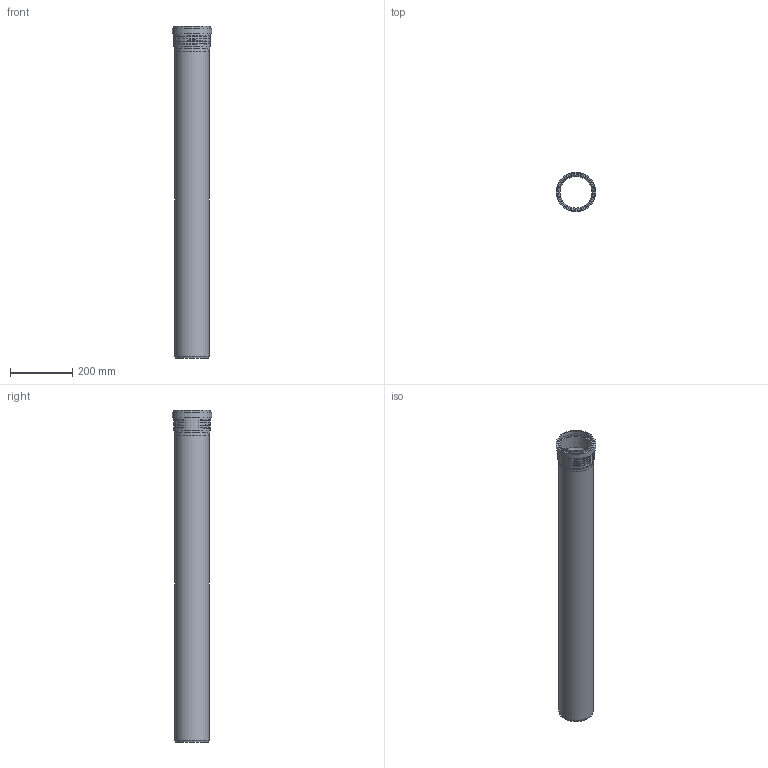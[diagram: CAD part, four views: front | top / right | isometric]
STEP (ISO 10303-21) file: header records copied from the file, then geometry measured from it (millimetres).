
FILE_DESCRIPTION(/* description */ (''),/* implementation_level */ '2;1');
FILE_NAME(/* name */ 'Z:\Geberit\Export\NewStep\390504.stp',/* time_stamp */ '2014-04-02T08:13:50+02:00',/* author */ ('ML'),/* organization */ (''),/* preprocessor_version */ 'ST-DEVELOPER v15.2',/* originating_system */ 'Autodesk Inventor 2014',/* authorisation */ '');
FILE_SCHEMA (('AUTOMOTIVE_DESIGN { 1 0 10303 214 3 1 1 }'));
Length unit declared in the file: millimetre
Products named in the file (3): 861441; 861585ohne; 390504
Bounding box: 127.4 x 127.4 x 1068.1 mm (x, y, z)
Volume: 1323212.5 mm3; surface area: 741358.4 mm2
Topology: 2 solids, 2 shells, 47 faces, 104 edges, 71 vertices
Faces by surface type: torus 24, cylinder 11, plane 10, cone 2
Full cylindrical faces by diameter (mm): 103 x2, 110.2 x2, 111.1 x2, 114.7 x1, 118.3 x2, 120.2 x1, 127.4 x1
Entity records: 2003 total; most frequent: CARTESIAN_POINT 962, DIRECTION 182, ORIENTED_EDGE 174, AXIS2_PLACEMENT_3D 91, EDGE_CURVE 87, EDGE_LOOP 78, VERTEX_POINT 71, STYLED_ITEM 49
